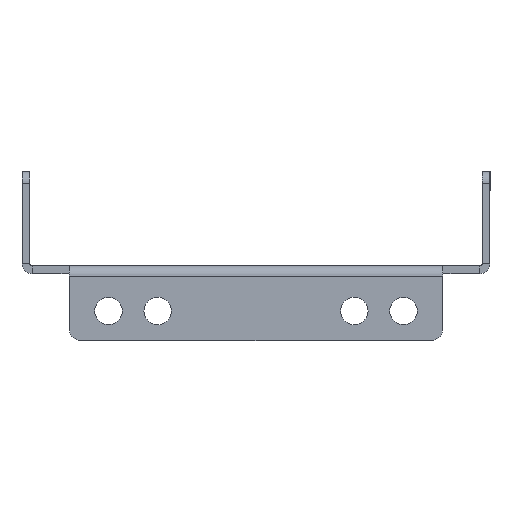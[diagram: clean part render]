
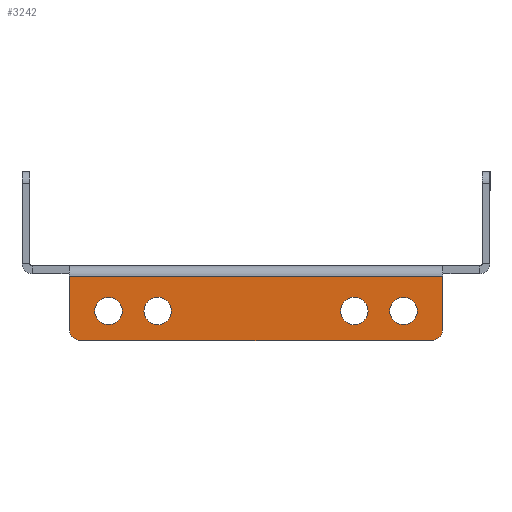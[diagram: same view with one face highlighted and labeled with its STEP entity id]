
A CAD part, left-side view. The second image highlights one B-rep face of the part: STEP entity #3242.
In plain terms, the highlighted planar face has unit normal (-1, 0, 0).
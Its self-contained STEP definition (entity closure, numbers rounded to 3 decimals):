
#29 = EDGE_CURVE ( 'NONE', #2420, #4140, #1305, .T. ) ;
#45 = CIRCLE ( 'NONE', #1226, 3.5 ) ;
#67 = DIRECTION ( 'NONE',  ( 0., 1., 0. ) ) ;
#114 = DIRECTION ( 'NONE',  ( -1., 0., 0. ) ) ;
#117 = AXIS2_PLACEMENT_3D ( 'NONE', #2332, #1018, #2353 ) ;
#129 = AXIS2_PLACEMENT_3D ( 'NONE', #570, #2886, #4226 ) ;
#139 = VECTOR ( 'NONE', #67, 1000. ) ;
#186 = CIRCLE ( 'NONE', #3478, 3.5 ) ;
#214 = VERTEX_POINT ( 'NONE', #3210 ) ;
#240 = DIRECTION ( 'NONE',  ( -1., 0., 0. ) ) ;
#244 = LINE ( 'NONE', #3603, #1817 ) ;
#257 = VERTEX_POINT ( 'NONE', #3968 ) ;
#262 = CARTESIAN_POINT ( 'NONE',  ( -250., 47.5, 0. ) ) ;
#287 = ORIENTED_EDGE ( 'NONE', *, *, #2322, .F. ) ;
#306 = FACE_BOUND ( 'NONE', #1646, .T. ) ;
#336 = CIRCLE ( 'NONE', #1094, 3.5 ) ;
#342 = CIRCLE ( 'NONE', #3145, 3.5 ) ;
#384 = CARTESIAN_POINT ( 'NONE',  ( -250., 44.5, -17. ) ) ;
#447 = DIRECTION ( 'NONE',  ( 0., 0., -1. ) ) ;
#457 = CARTESIAN_POINT ( 'NONE',  ( -250., 25., -13. ) ) ;
#460 = CARTESIAN_POINT ( 'NONE',  ( -250., -44.5, -14. ) ) ;
#490 = DIRECTION ( 'NONE',  ( 0., 0., -1. ) ) ;
#511 = EDGE_CURVE ( 'NONE', #214, #257, #45, .T. ) ;
#534 = EDGE_CURVE ( 'NONE', #3777, #3025, #336, .T. ) ;
#569 = FACE_BOUND ( 'NONE', #1177, .T. ) ;
#570 = CARTESIAN_POINT ( 'NONE',  ( -250., -37.5, -9.5 ) ) ;
#574 = EDGE_CURVE ( 'NONE', #2691, #3287, #2137, .T. ) ;
#588 = CARTESIAN_POINT ( 'NONE',  ( -250., 47.5, -14. ) ) ;
#639 = EDGE_CURVE ( 'NONE', #3259, #3287, #2207, .T. ) ;
#737 = CARTESIAN_POINT ( 'NONE',  ( -250., 47.5, -0.6 ) ) ;
#816 = DIRECTION ( 'NONE',  ( 0., 0., 1. ) ) ;
#852 = DIRECTION ( 'NONE',  ( -1., 0., 0. ) ) ;
#875 = EDGE_CURVE ( 'NONE', #2691, #3745, #970, .T. ) ;
#900 = ORIENTED_EDGE ( 'NONE', *, *, #4202, .T. ) ;
#912 = AXIS2_PLACEMENT_3D ( 'NONE', #1764, #852, #447 ) ;
#962 = ORIENTED_EDGE ( 'NONE', *, *, #3809, .F. ) ;
#970 = LINE ( 'NONE', #2297, #3412 ) ;
#1018 = DIRECTION ( 'NONE',  ( -1., 0., 0. ) ) ;
#1024 = ORIENTED_EDGE ( 'NONE', *, *, #29, .F. ) ;
#1052 = CARTESIAN_POINT ( 'NONE',  ( -250., -25., -6. ) ) ;
#1076 = EDGE_CURVE ( 'NONE', #3352, #4283, #186, .T. ) ;
#1092 = CARTESIAN_POINT ( 'NONE',  ( -250., -47.5, -0.6 ) ) ;
#1094 = AXIS2_PLACEMENT_3D ( 'NONE', #3122, #114, #490 ) ;
#1152 = CARTESIAN_POINT ( 'NONE',  ( -250., 37.5, -9.5 ) ) ;
#1177 = EDGE_LOOP ( 'NONE', ( #2694, #1307 ) ) ;
#1226 = AXIS2_PLACEMENT_3D ( 'NONE', #3844, #2149, #1497 ) ;
#1256 = CIRCLE ( 'NONE', #912, 3.5 ) ;
#1268 = FACE_OUTER_BOUND ( 'NONE', #3321, .T. ) ;
#1305 = CIRCLE ( 'NONE', #117, 3.5 ) ;
#1307 = ORIENTED_EDGE ( 'NONE', *, *, #3858, .F. ) ;
#1436 = EDGE_LOOP ( 'NONE', ( #2785, #962 ) ) ;
#1497 = DIRECTION ( 'NONE',  ( 0., 0., 1. ) ) ;
#1596 = DIRECTION ( 'NONE',  ( -1., 0., 0. ) ) ;
#1604 = AXIS2_PLACEMENT_3D ( 'NONE', #262, #1596, #2947 ) ;
#1634 = PLANE ( 'NONE',  #1604 ) ;
#1646 = EDGE_LOOP ( 'NONE', ( #1024, #2639 ) ) ;
#1647 = ORIENTED_EDGE ( 'NONE', *, *, #3319, .T. ) ;
#1650 = CARTESIAN_POINT ( 'NONE',  ( -250., -37.5, -6. ) ) ;
#1764 = CARTESIAN_POINT ( 'NONE',  ( -250., -25., -9.5 ) ) ;
#1817 = VECTOR ( 'NONE', #2968, 1000. ) ;
#1849 = ORIENTED_EDGE ( 'NONE', *, *, #639, .F. ) ;
#1885 = CIRCLE ( 'NONE', #2456, 3. ) ;
#2015 = CIRCLE ( 'NONE', #129, 3.5 ) ;
#2067 = DIRECTION ( 'NONE',  ( -1., 0., 0. ) ) ;
#2137 = CIRCLE ( 'NONE', #3900, 3. ) ;
#2149 = DIRECTION ( 'NONE',  ( -1., 0., 0. ) ) ;
#2156 = DIRECTION ( 'NONE',  ( -1., 0., 0. ) ) ;
#2207 = LINE ( 'NONE', #4214, #2783 ) ;
#2285 = VERTEX_POINT ( 'NONE', #588 ) ;
#2297 = CARTESIAN_POINT ( 'NONE',  ( -250., 47.5, -17. ) ) ;
#2322 = EDGE_CURVE ( 'NONE', #3025, #3777, #2015, .T. ) ;
#2332 = CARTESIAN_POINT ( 'NONE',  ( -250., 25., -9.5 ) ) ;
#2353 = DIRECTION ( 'NONE',  ( 0., 0., 1. ) ) ;
#2366 = CARTESIAN_POINT ( 'NONE',  ( -250., 25., -6. ) ) ;
#2420 = VERTEX_POINT ( 'NONE', #2366 ) ;
#2422 = DIRECTION ( 'NONE',  ( 0., 0., 1. ) ) ;
#2456 = AXIS2_PLACEMENT_3D ( 'NONE', #3292, #3647, #3879 ) ;
#2469 = CARTESIAN_POINT ( 'NONE',  ( -250., 25., -9.5 ) ) ;
#2512 = DIRECTION ( 'NONE',  ( 0., 0., 1. ) ) ;
#2613 = FACE_BOUND ( 'NONE', #3042, .T. ) ;
#2639 = ORIENTED_EDGE ( 'NONE', *, *, #2726, .F. ) ;
#2691 = VERTEX_POINT ( 'NONE', #3792 ) ;
#2694 = ORIENTED_EDGE ( 'NONE', *, *, #511, .F. ) ;
#2697 = LINE ( 'NONE', #737, #139 ) ;
#2699 = VERTEX_POINT ( 'NONE', #2759 ) ;
#2726 = EDGE_CURVE ( 'NONE', #4140, #2420, #342, .T. ) ;
#2738 = AXIS2_PLACEMENT_3D ( 'NONE', #1152, #2156, #2512 ) ;
#2759 = CARTESIAN_POINT ( 'NONE',  ( -250., 47.5, -0.6 ) ) ;
#2783 = VECTOR ( 'NONE', #2951, 1000. ) ;
#2785 = ORIENTED_EDGE ( 'NONE', *, *, #1076, .F. ) ;
#2886 = DIRECTION ( 'NONE',  ( -1., 0., 0. ) ) ;
#2922 = CARTESIAN_POINT ( 'NONE',  ( -250., -25., -9.5 ) ) ;
#2947 = DIRECTION ( 'NONE',  ( 0., 0., 1. ) ) ;
#2951 = DIRECTION ( 'NONE',  ( 0., 0., -1. ) ) ;
#2968 = DIRECTION ( 'NONE',  ( 0., 0., 1. ) ) ;
#3025 = VERTEX_POINT ( 'NONE', #4142 ) ;
#3042 = EDGE_LOOP ( 'NONE', ( #3416, #287 ) ) ;
#3122 = CARTESIAN_POINT ( 'NONE',  ( -250., -37.5, -9.5 ) ) ;
#3145 = AXIS2_PLACEMENT_3D ( 'NONE', #2469, #2067, #2422 ) ;
#3210 = CARTESIAN_POINT ( 'NONE',  ( -250., 37.5, -6. ) ) ;
#3242 = ADVANCED_FACE ( 'NONE', ( #2613, #3310, #306, #569, #1268 ), #1634, .T. ) ;
#3259 = VERTEX_POINT ( 'NONE', #1092 ) ;
#3287 = VERTEX_POINT ( 'NONE', #3683 ) ;
#3292 = CARTESIAN_POINT ( 'NONE',  ( -250., 44.5, -14. ) ) ;
#3310 = FACE_BOUND ( 'NONE', #1436, .T. ) ;
#3319 = EDGE_CURVE ( 'NONE', #3259, #2699, #2697, .T. ) ;
#3321 = EDGE_LOOP ( 'NONE', ( #3357, #3396, #1849, #1647, #3456, #900 ) ) ;
#3352 = VERTEX_POINT ( 'NONE', #1052 ) ;
#3357 = ORIENTED_EDGE ( 'NONE', *, *, #875, .F. ) ;
#3396 = ORIENTED_EDGE ( 'NONE', *, *, #574, .T. ) ;
#3412 = VECTOR ( 'NONE', #3839, 1000. ) ;
#3416 = ORIENTED_EDGE ( 'NONE', *, *, #534, .F. ) ;
#3456 = ORIENTED_EDGE ( 'NONE', *, *, #4224, .F. ) ;
#3478 = AXIS2_PLACEMENT_3D ( 'NONE', #2922, #240, #4245 ) ;
#3577 = CIRCLE ( 'NONE', #2738, 3.5 ) ;
#3603 = CARTESIAN_POINT ( 'NONE',  ( -250., 47.5, 0. ) ) ;
#3647 = DIRECTION ( 'NONE',  ( -1., 0., 0. ) ) ;
#3683 = CARTESIAN_POINT ( 'NONE',  ( -250., -47.5, -14. ) ) ;
#3745 = VERTEX_POINT ( 'NONE', #384 ) ;
#3777 = VERTEX_POINT ( 'NONE', #1650 ) ;
#3792 = CARTESIAN_POINT ( 'NONE',  ( -250., -44.5, -17. ) ) ;
#3809 = EDGE_CURVE ( 'NONE', #4283, #3352, #1256, .T. ) ;
#3839 = DIRECTION ( 'NONE',  ( 0., 1., 0. ) ) ;
#3844 = CARTESIAN_POINT ( 'NONE',  ( -250., 37.5, -9.5 ) ) ;
#3858 = EDGE_CURVE ( 'NONE', #257, #214, #3577, .T. ) ;
#3879 = DIRECTION ( 'NONE',  ( 0., 0., 1. ) ) ;
#3900 = AXIS2_PLACEMENT_3D ( 'NONE', #460, #4101, #816 ) ;
#3968 = CARTESIAN_POINT ( 'NONE',  ( -250., 37.5, -13. ) ) ;
#4101 = DIRECTION ( 'NONE',  ( -1., 0., 0. ) ) ;
#4140 = VERTEX_POINT ( 'NONE', #457 ) ;
#4142 = CARTESIAN_POINT ( 'NONE',  ( -250., -37.5, -13. ) ) ;
#4202 = EDGE_CURVE ( 'NONE', #2285, #3745, #1885, .T. ) ;
#4214 = CARTESIAN_POINT ( 'NONE',  ( -250., -47.5, -17. ) ) ;
#4224 = EDGE_CURVE ( 'NONE', #2285, #2699, #244, .T. ) ;
#4226 = DIRECTION ( 'NONE',  ( 0., 0., -1. ) ) ;
#4227 = CARTESIAN_POINT ( 'NONE',  ( -250., -25., -13. ) ) ;
#4245 = DIRECTION ( 'NONE',  ( 0., 0., -1. ) ) ;
#4283 = VERTEX_POINT ( 'NONE', #4227 ) ;
